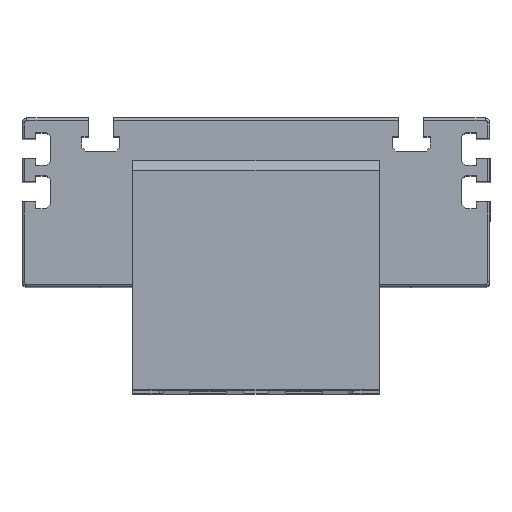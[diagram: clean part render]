
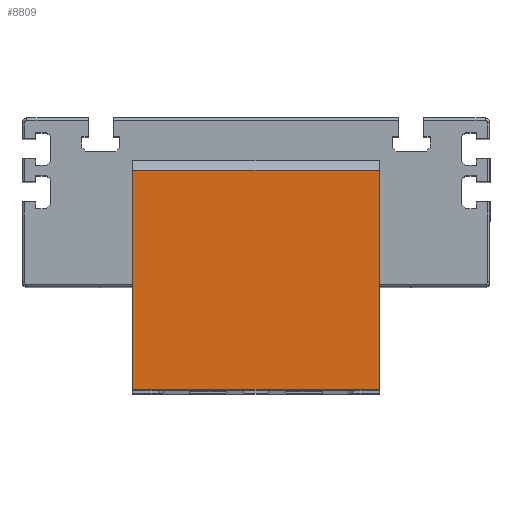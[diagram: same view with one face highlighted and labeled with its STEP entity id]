
A CAD part, top view. The second image highlights one B-rep face of the part: STEP entity #8809.
In plain terms, the highlighted planar face has unit normal (0, 0, 1).
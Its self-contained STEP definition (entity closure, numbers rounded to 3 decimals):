
#427 = DIRECTION ( 'NONE',  ( 0., 0., -1. ) ) ;
#802 = VERTEX_POINT ( 'NONE', #13155 ) ;
#821 = CARTESIAN_POINT ( 'NONE',  ( 0., 0., 45. ) ) ;
#1403 = VECTOR ( 'NONE', #5619, 1000. ) ;
#1788 = EDGE_CURVE ( 'NONE', #8757, #15155, #10965, .T. ) ;
#2731 = VECTOR ( 'NONE', #12005, 1000. ) ;
#3165 = CARTESIAN_POINT ( 'NONE',  ( 100., 89., 45. ) ) ;
#3637 = CARTESIAN_POINT ( 'NONE',  ( 100., 46.5, 45. ) ) ;
#3982 = CARTESIAN_POINT ( 'NONE',  ( 0., 89., 45. ) ) ;
#4023 = ORIENTED_EDGE ( 'NONE', *, *, #8940, .T. ) ;
#4063 = ORIENTED_EDGE ( 'NONE', *, *, #14554, .F. ) ;
#4452 = LINE ( 'NONE', #7617, #4839 ) ;
#4499 = ORIENTED_EDGE ( 'NONE', *, *, #8617, .F. ) ;
#4526 = ORIENTED_EDGE ( 'NONE', *, *, #1788, .T. ) ;
#4573 = CARTESIAN_POINT ( 'NONE',  ( 0., 46.5, 45. ) ) ;
#4839 = VECTOR ( 'NONE', #13535, 1000. ) ;
#5241 = CARTESIAN_POINT ( 'NONE',  ( 100., 46.5, 45. ) ) ;
#5619 = DIRECTION ( 'NONE',  ( -1., 0., 0. ) ) ;
#6326 = CARTESIAN_POINT ( 'NONE',  ( 100., 89., 45. ) ) ;
#6404 = AXIS2_PLACEMENT_3D ( 'NONE', #5241, #427, #8810 ) ;
#7617 = CARTESIAN_POINT ( 'NONE',  ( 100., 0., 45. ) ) ;
#7630 = PLANE ( 'NONE',  #6404 ) ;
#8617 = EDGE_CURVE ( 'NONE', #8757, #802, #11545, .T. ) ;
#8757 = VERTEX_POINT ( 'NONE', #6326 ) ;
#8790 = EDGE_LOOP ( 'NONE', ( #4499, #4526, #4023, #4063 ) ) ;
#8809 = ADVANCED_FACE ( 'NONE', ( #14129 ), #7630, .F. ) ;
#8810 = DIRECTION ( 'NONE',  ( -1., 0., 0. ) ) ;
#8882 = VERTEX_POINT ( 'NONE', #821 ) ;
#8940 = EDGE_CURVE ( 'NONE', #15155, #8882, #12646, .T. ) ;
#9102 = VECTOR ( 'NONE', #12900, 1000. ) ;
#10965 = LINE ( 'NONE', #3165, #1403 ) ;
#11545 = LINE ( 'NONE', #3637, #2731 ) ;
#12005 = DIRECTION ( 'NONE',  ( 0., -1., 0. ) ) ;
#12646 = LINE ( 'NONE', #4573, #9102 ) ;
#12900 = DIRECTION ( 'NONE',  ( 0., -1., 0. ) ) ;
#13155 = CARTESIAN_POINT ( 'NONE',  ( 100., 0., 45. ) ) ;
#13535 = DIRECTION ( 'NONE',  ( -1., 0., 0. ) ) ;
#14129 = FACE_OUTER_BOUND ( 'NONE', #8790, .T. ) ;
#14554 = EDGE_CURVE ( 'NONE', #802, #8882, #4452, .T. ) ;
#15155 = VERTEX_POINT ( 'NONE', #3982 ) ;
